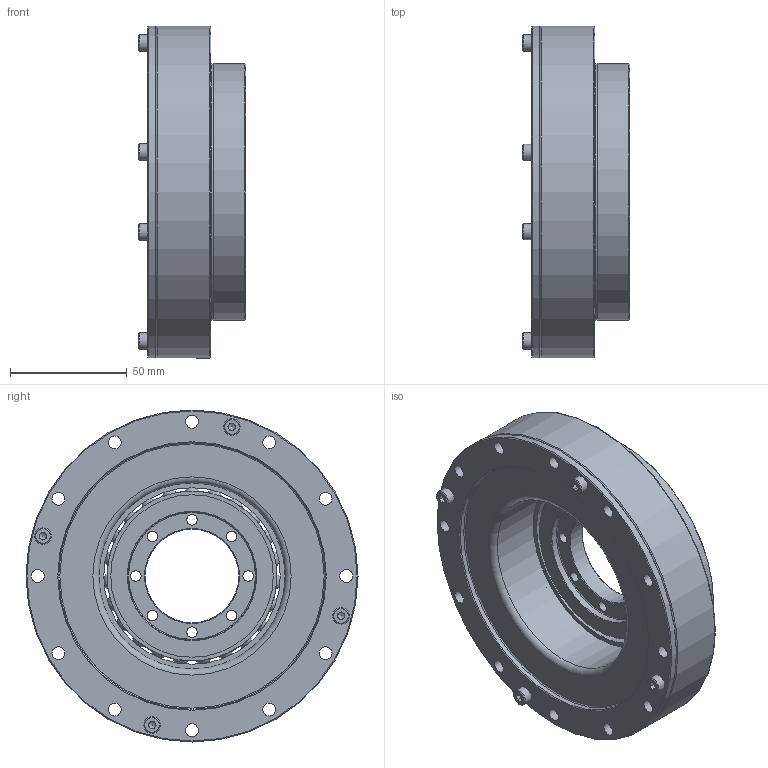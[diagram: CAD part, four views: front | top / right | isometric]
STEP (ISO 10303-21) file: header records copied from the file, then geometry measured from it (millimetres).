
FILE_DESCRIPTION(/* description */ (''),/* implementation_level */ '2;1');
FILE_NAME(/* name */ 'Getriebeset_HTG_Plus_BG81_HS.stp',/* time_stamp */ '2026-03-10T08:47:23+01:00',/* author */ (''),/* organization */ (''),/* preprocessor_version */ 'ST-DEVELOPER v19.4',/* originating_system */ 'SIEMENS PLM Software NX2212.9120',/* authorisation */ '');
FILE_SCHEMA (('AUTOMOTIVE_DESIGN { 1 0 10303 214 3 1 1 1 }'));
Length unit declared in the file: millimetre
Products named in the file (1): Getriebeset_HTG_Plus_BG81_HS
Bounding box: 46 x 142 x 142 mm (x, y, z)
Volume: 339495 mm3; surface area: 184551.6 mm2
Topology: 43 solids, 43 shells, 540 faces, 1385 edges, 907 vertices
Faces by surface type: cylinder 178, plane 175, cone 116, sphere 27, torus 23, bspline 21
Full cylindrical faces by diameter (mm): 3 x4, 3.4 x8, 4 x8, 4.3 x16, 4.5 x16, 5.5 x40, 7 x8, 8 x4, 40 x1, 55 x1, 59 x2, 63 x1, 63.3 x2, 69.508 x1, 75.5 x2, 79.6 x2, 80.74 x1, 81.5 x1, 83.21 x1, 84 x1, 88 x2, 88.1 x1, 92.5 x1, 101.2 x1, 109.991 x1, 110 x2, 112 x2, 114 x3, 117.6 x1, 121.991 x2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
Entity records: 16267 total; most frequent: CARTESIAN_POINT 4838, DIRECTION 2308, ORIENTED_EDGE 1760, AXIS2_PLACEMENT_3D 1056, EDGE_LOOP 927, EDGE_CURVE 880, FACE_BOUND 777, VERTEX_POINT 738
